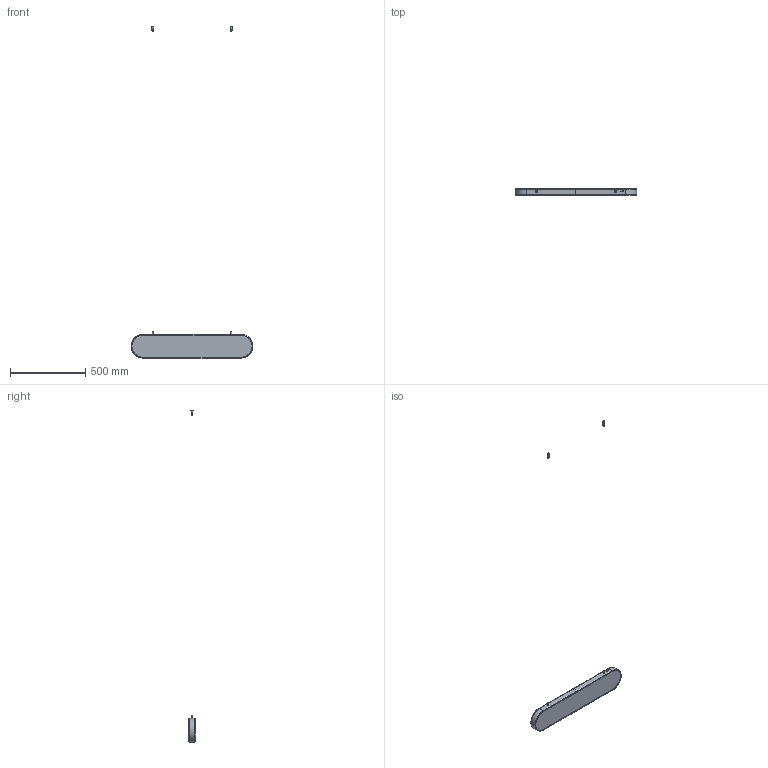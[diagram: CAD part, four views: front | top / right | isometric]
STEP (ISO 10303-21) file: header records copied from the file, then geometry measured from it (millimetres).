
FILE_DESCRIPTION(/* description */ (''),/* implementation_level */ '2;1');
FILE_NAME(/* name */ 'Sunne80 Brass',/* time_stamp */ '2024-04-16T09:45:50-07:00',/* author */ (''),/* organization */ (''),/* preprocessor_version */ 'ST-DEVELOPER v16.5',/* originating_system */ '',/* authorisation */ '');
FILE_SCHEMA (('AUTOMOTIVE_DESIGN'));
Length unit declared in the file: millimetre
Products named in the file (5): Document; Block 01; Sunne_solar_panel_v0.1; Sunne_diffuser_v1.0_V1.2; Sunn_steel_cable
Assembly tree (5 placements, depth 3):
  Document
    Block 01
      Sunne_solar_panel_v0.1
      Sunne_diffuser_v1.0_V1.2
    Sunn_steel_cable  x2
Bounding box: 805.88 x 41.7 x 2200 mm (x, y, z)
Volume: 875380.3 mm3; surface area: 656746.3 mm2
Topology: 11 solids, 13 shells, 178 faces, 362 edges, 221 vertices
Faces by surface type: bspline 105, plane 73
Entity records: 7422 total; most frequent: CARTESIAN_POINT 4952, ORIENTED_EDGE 703, EDGE_CURVE 356, VERTEX_POINT 217, EDGE_LOOP 203, ADVANCED_FACE 173, FACE_OUTER_BOUND 173, B_SPLINE_CURVE_WITH_KNOTS 122
